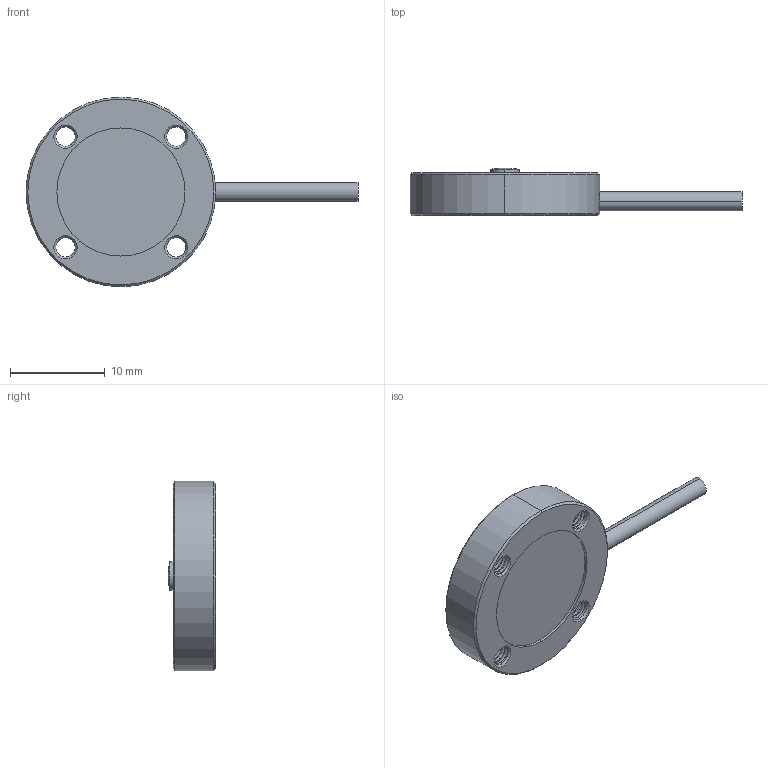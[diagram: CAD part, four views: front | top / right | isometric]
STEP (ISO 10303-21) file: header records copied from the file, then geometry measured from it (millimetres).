
FILE_DESCRIPTION (( 'STEP AP203' ), '1' );
FILE_NAME ('LCB04.STEP', '2024-07-16T05:15:35', ( '' ), ( '' ), 'SwSTEP 2.0', 'SolidWorks 2019', '' );
FILE_SCHEMA (( 'CONFIG_CONTROL_DESIGN' ));
Length unit declared in the file: millimetre
Products named in the file (1): LCB04
Bounding box: 35 x 5 x 20 mm (x, y, z)
Volume: 1302.8 mm3; surface area: 1188.7 mm2
Topology: 2 solids, 2 shells, 140 faces, 406 edges, 273 vertices
Faces by surface type: cylinder 88, cone 28, bspline 12, plane 10, sphere 2
Entity records: 13575 total; most frequent: CARTESIAN_POINT 10324, ORIENTED_EDGE 812, DIRECTION 498, EDGE_CURVE 406, VERTEX_POINT 273, AXIS2_PLACEMENT_3D 195, EDGE_LOOP 151, FACE_OUTER_BOUND 140
